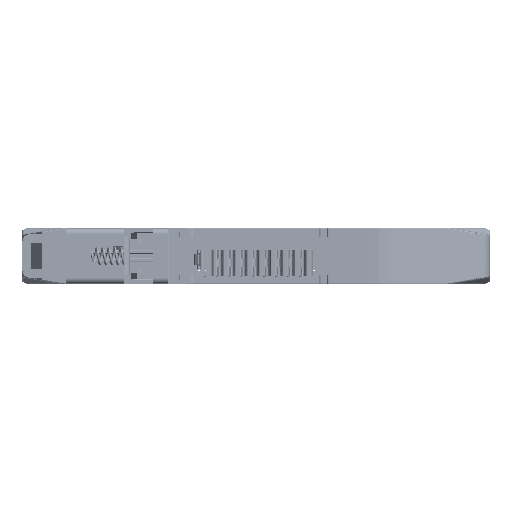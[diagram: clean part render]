
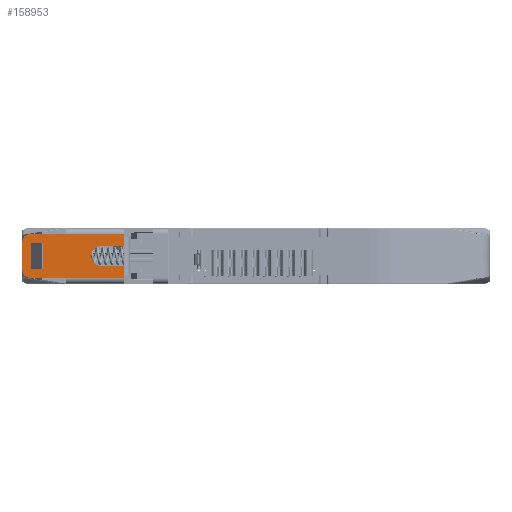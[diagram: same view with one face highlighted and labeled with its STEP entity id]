
A CAD part, front view. The second image highlights one B-rep face of the part: STEP entity #158953.
In plain terms, the highlighted planar face has unit normal (0, -1, 0) as drawn and (0, 0, -1) by its records, which use the part's own axes.
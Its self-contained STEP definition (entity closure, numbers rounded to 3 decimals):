
#157174=DIRECTION('',(-1.,0.,0.));
#157175=VECTOR('',#157174,2.6);
#157176=CARTESIAN_POINT('',(4.4,8.7,0.));
#157177=LINE('',#157176,#157175);
#157178=DIRECTION('',(0.,1.,0.));
#157179=VECTOR('',#157178,5.6);
#157180=CARTESIAN_POINT('',(4.4,3.1,0.));
#157181=LINE('',#157180,#157179);
#157182=DIRECTION('',(1.,0.,0.));
#157183=VECTOR('',#157182,2.6);
#157184=CARTESIAN_POINT('',(1.8,3.1,0.));
#157185=LINE('',#157184,#157183);
#157186=DIRECTION('',(0.,-1.,0.));
#157187=VECTOR('',#157186,5.6);
#157188=CARTESIAN_POINT('',(1.8,8.7,0.));
#157189=LINE('',#157188,#157187);
#157198=DIRECTION('',(0.,1.,0.));
#157199=VECTOR('',#157198,0.15);
#157200=CARTESIAN_POINT('',(21.7,1.2,0.));
#157201=LINE('',#157200,#157199);
#157202=DIRECTION('',(1.,0.,0.));
#157203=VECTOR('',#157202,4.8);
#157204=CARTESIAN_POINT('',(16.9,3.7,0.));
#157205=LINE('',#157204,#157203);
#157206=CARTESIAN_POINT('',(16.9,5.9,0.));
#157207=DIRECTION('',(0.,0.,1.));
#157208=DIRECTION('',(0.,1.,0.));
#157209=AXIS2_PLACEMENT_3D('',#157206,#157207,#157208);
#157211=DIRECTION('',(-1.,0.,0.));
#157212=VECTOR('',#157211,4.8);
#157213=CARTESIAN_POINT('',(21.7,8.1,0.));
#157214=LINE('',#157213,#157212);
#157215=DIRECTION('',(0.,-1.,0.));
#157216=VECTOR('',#157215,0.15);
#157217=CARTESIAN_POINT('',(21.7,10.6,0.));
#157218=LINE('',#157217,#157216);
#157219=DIRECTION('',(0.,-1.,0.));
#157220=VECTOR('',#157219,0.05);
#157221=CARTESIAN_POINT('',(9.4,10.6,0.));
#157222=LINE('',#157221,#157220);
#157223=DIRECTION('',(-1.,0.,0.));
#157224=VECTOR('',#157223,7.9);
#157225=CARTESIAN_POINT('',(9.4,10.55,0.));
#157226=LINE('',#157225,#157224);
#157227=CARTESIAN_POINT('',(1.5,9.05,0.));
#157228=DIRECTION('',(0.,0.,1.));
#157229=DIRECTION('',(0.,1.,0.));
#157230=AXIS2_PLACEMENT_3D('',#157227,#157228,#157229);
#157232=DIRECTION('',(0.,-1.,0.));
#157233=VECTOR('',#157232,6.3);
#157234=CARTESIAN_POINT('',(0.,9.05,0.));
#157235=LINE('',#157234,#157233);
#157236=CARTESIAN_POINT('',(1.5,2.75,0.));
#157237=DIRECTION('',(0.,0.,1.));
#157238=DIRECTION('',(-1.,0.,0.));
#157239=AXIS2_PLACEMENT_3D('',#157236,#157237,#157238);
#157241=DIRECTION('',(1.,0.,0.));
#157242=VECTOR('',#157241,7.9);
#157243=CARTESIAN_POINT('',(1.5,1.25,0.));
#157244=LINE('',#157243,#157242);
#157245=DIRECTION('',(0.,-1.,0.));
#157246=VECTOR('',#157245,0.05);
#157247=CARTESIAN_POINT('',(9.4,1.25,0.));
#157248=LINE('',#157247,#157246);
#157473=DIRECTION('',(1.,0.,0.));
#157474=VECTOR('',#157473,12.3);
#157475=CARTESIAN_POINT('',(9.4,10.6,0.));
#157476=LINE('',#157475,#157474);
#157494=DIRECTION('',(1.,0.,0.));
#157495=VECTOR('',#157494,12.3);
#157496=CARTESIAN_POINT('',(9.4,1.2,0.));
#157497=LINE('',#157496,#157495);
#157959=DIRECTION('',(0.,-1.,0.));
#157960=VECTOR('',#157959,2.35);
#157961=CARTESIAN_POINT('',(21.7,3.7,0.));
#157962=LINE('',#157961,#157960);
#157977=DIRECTION('',(0.,-1.,0.));
#157978=VECTOR('',#157977,2.35);
#157979=CARTESIAN_POINT('',(21.7,10.45,0.));
#157980=LINE('',#157979,#157978);
#158332=CARTESIAN_POINT('',(0.,2.75,0.));
#158333=CARTESIAN_POINT('',(1.5,1.25,0.));
#158334=VERTEX_POINT('',#158332);
#158335=VERTEX_POINT('',#158333);
#158336=CARTESIAN_POINT('',(9.4,1.25,0.));
#158337=VERTEX_POINT('',#158336);
#158338=CARTESIAN_POINT('',(9.4,10.55,0.));
#158339=CARTESIAN_POINT('',(1.5,10.55,0.));
#158340=VERTEX_POINT('',#158338);
#158341=VERTEX_POINT('',#158339);
#158342=CARTESIAN_POINT('',(0.,9.05,0.));
#158343=VERTEX_POINT('',#158342);
#158356=CARTESIAN_POINT('',(9.4,1.2,0.));
#158357=VERTEX_POINT('',#158356);
#158541=CARTESIAN_POINT('',(9.4,10.6,0.));
#158543=VERTEX_POINT('',#158541);
#158572=CARTESIAN_POINT('',(4.4,8.7,0.));
#158573=CARTESIAN_POINT('',(1.8,8.7,0.));
#158574=VERTEX_POINT('',#158572);
#158575=VERTEX_POINT('',#158573);
#158576=CARTESIAN_POINT('',(1.8,3.1,0.));
#158577=VERTEX_POINT('',#158576);
#158578=CARTESIAN_POINT('',(4.4,3.1,0.));
#158579=VERTEX_POINT('',#158578);
#158580=CARTESIAN_POINT('',(21.7,8.1,0.));
#158581=CARTESIAN_POINT('',(16.9,8.1,0.));
#158582=VERTEX_POINT('',#158580);
#158583=VERTEX_POINT('',#158581);
#158584=CARTESIAN_POINT('',(16.9,3.7,0.));
#158585=VERTEX_POINT('',#158584);
#158586=CARTESIAN_POINT('',(21.7,3.7,0.));
#158587=VERTEX_POINT('',#158586);
#158620=CARTESIAN_POINT('',(21.7,1.2,0.));
#158621=VERTEX_POINT('',#158620);
#158632=CARTESIAN_POINT('',(21.7,10.6,0.));
#158633=VERTEX_POINT('',#158632);
#158668=CARTESIAN_POINT('',(21.7,1.35,0.));
#158669=VERTEX_POINT('',#158668);
#158670=CARTESIAN_POINT('',(21.7,10.45,0.));
#158671=VERTEX_POINT('',#158670);
#158904=CARTESIAN_POINT('',(0.,0.,0.));
#158905=DIRECTION('',(0.,0.,1.));
#158906=DIRECTION('',(1.,0.,0.));
#158907=AXIS2_PLACEMENT_3D('',#158904,#158905,#158906);
#158908=PLANE('',#158907);
#158910=ORIENTED_EDGE('',*,*,#158909,.T.);
#158912=ORIENTED_EDGE('',*,*,#158911,.F.);
#158914=ORIENTED_EDGE('',*,*,#158913,.F.);
#158916=ORIENTED_EDGE('',*,*,#158915,.F.);
#158918=ORIENTED_EDGE('',*,*,#158917,.F.);
#158920=ORIENTED_EDGE('',*,*,#158919,.F.);
#158922=ORIENTED_EDGE('',*,*,#158921,.F.);
#158924=ORIENTED_EDGE('',*,*,#158923,.F.);
#158926=ORIENTED_EDGE('',*,*,#158925,.T.);
#158928=ORIENTED_EDGE('',*,*,#158927,.T.);
#158930=ORIENTED_EDGE('',*,*,#158929,.T.);
#158932=ORIENTED_EDGE('',*,*,#158931,.T.);
#158934=ORIENTED_EDGE('',*,*,#158933,.T.);
#158936=ORIENTED_EDGE('',*,*,#158935,.T.);
#158938=ORIENTED_EDGE('',*,*,#158937,.T.);
#158940=ORIENTED_EDGE('',*,*,#158939,.T.);
#158941=EDGE_LOOP('',(#158910,#158912,#158914,#158916,#158918,#158920,#158922,
#158924,#158926,#158928,#158930,#158932,#158934,#158936,#158938,#158940));
#158942=FACE_OUTER_BOUND('',#158941,.F.);
#158944=ORIENTED_EDGE('',*,*,#158943,.F.);
#158946=ORIENTED_EDGE('',*,*,#158945,.F.);
#158948=ORIENTED_EDGE('',*,*,#158947,.F.);
#158950=ORIENTED_EDGE('',*,*,#158949,.F.);
#158951=EDGE_LOOP('',(#158944,#158946,#158948,#158950));
#158952=FACE_BOUND('',#158951,.F.);
#158953=ADVANCED_FACE('',(#158942,#158952),#158908,.F.);
#157210=CIRCLE('',#157209,2.2);
#157231=CIRCLE('',#157230,1.5);
#157240=CIRCLE('',#157239,1.5);
#158909=EDGE_CURVE('',#158621,#158669,#157201,.T.);
#158911=EDGE_CURVE('',#158587,#158669,#157962,.T.);
#158913=EDGE_CURVE('',#158585,#158587,#157205,.T.);
#158915=EDGE_CURVE('',#158583,#158585,#157210,.T.);
#158917=EDGE_CURVE('',#158582,#158583,#157214,.T.);
#158919=EDGE_CURVE('',#158671,#158582,#157980,.T.);
#158921=EDGE_CURVE('',#158633,#158671,#157218,.T.);
#158923=EDGE_CURVE('',#158543,#158633,#157476,.T.);
#158925=EDGE_CURVE('',#158543,#158340,#157222,.T.);
#158927=EDGE_CURVE('',#158340,#158341,#157226,.T.);
#158929=EDGE_CURVE('',#158341,#158343,#157231,.T.);
#158931=EDGE_CURVE('',#158343,#158334,#157235,.T.);
#158933=EDGE_CURVE('',#158334,#158335,#157240,.T.);
#158935=EDGE_CURVE('',#158335,#158337,#157244,.T.);
#158937=EDGE_CURVE('',#158337,#158357,#157248,.T.);
#158939=EDGE_CURVE('',#158357,#158621,#157497,.T.);
#158943=EDGE_CURVE('',#158574,#158575,#157177,.T.);
#158945=EDGE_CURVE('',#158579,#158574,#157181,.T.);
#158947=EDGE_CURVE('',#158577,#158579,#157185,.T.);
#158949=EDGE_CURVE('',#158575,#158577,#157189,.T.);
